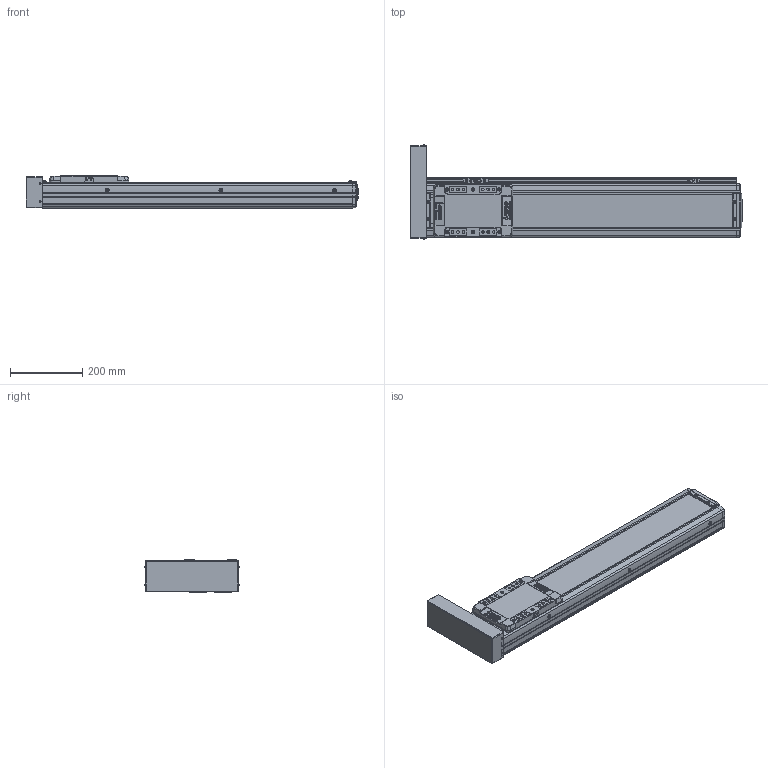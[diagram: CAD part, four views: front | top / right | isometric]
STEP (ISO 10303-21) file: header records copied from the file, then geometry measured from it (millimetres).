
FILE_DESCRIPTION(('STEP AP214'),'1');
FILE_NAME('Z:/Web/3D/SAN150/2013.04 (STP.)/SAN150ㅁㅁ-600PL+3SL.stp','2013-05-07T11:27:34',(' '),(' '),'Spatial InterOp 3D',' ',' ');
FILE_SCHEMA(('automotive_design'));
Length unit declared in the file: millimetre
Products named in the file (60): SLBL-SAN150; SLCV-SAN150; FHCS M4.0 x 8.0; BHCS M4.0 x 10.0; SFX-SAN150; RRCV-SAN150; FRBL-SAN150; Spacer; RN15; FRCV-SAN150; Screw 20; BASE-SAN150-000L ; SUS COVER; 스크루 : Round - M5.0 x 6.0; BHCS M3.0 x 6.0; P; M3.0 x 6.0; SRL-16x17-360L; SGD-SAN150; EE-SX674; SBK-SX674-352; 스크루 : Round - M3.0 x 6.0
Bounding box: 920 x 260.73 x 90 mm (x, y, z)
Volume: 6053542.1 mm3; surface area: 1121962.9 mm2
Topology: 60 solids, 60 shells, 2694 faces, 6916 edges, 4441 vertices
Faces by surface type: plane 1416, cylinder 875, cone 286, sphere 84, bspline 21, torus 12
Entity records: 106540 total; most frequent: CARTESIAN_POINT 16889, DIRECTION 14656, ORIENTED_EDGE 13592, EDGE_CURVE 6796, AXIS2_PLACEMENT_3D 5219, VERTEX_POINT 4441, LINE 4218, VECTOR 4218
